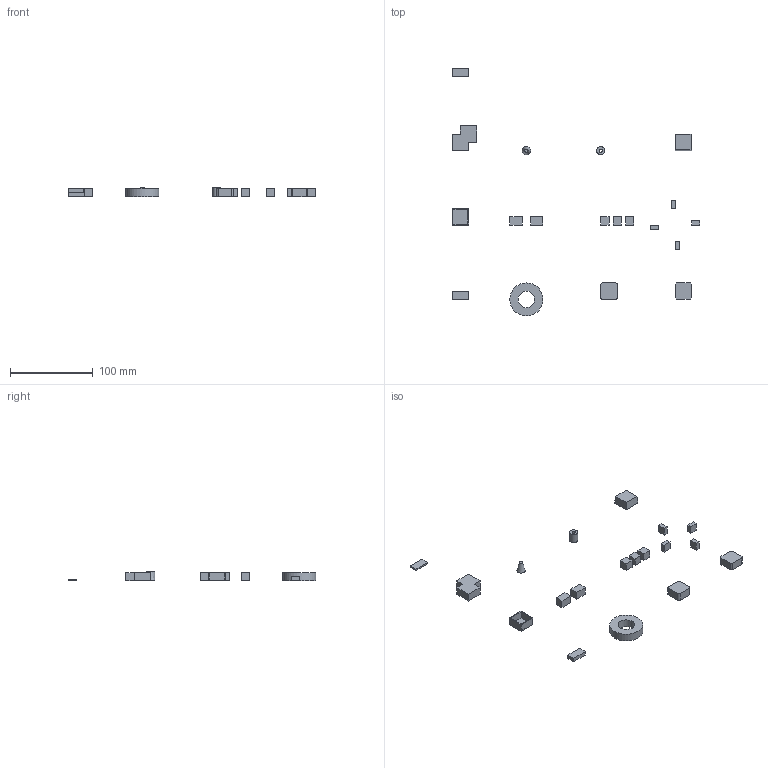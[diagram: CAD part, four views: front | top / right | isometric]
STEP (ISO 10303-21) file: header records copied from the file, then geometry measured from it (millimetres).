
FILE_DESCRIPTION(/* description */ ('STEP AP214','CAx-IF Rec.Pracs.---User Defined Attributes---1.5---2016-08-15'),/* implementation_level */ '2;1');
FILE_NAME(/* name */ '6ac81ae05e2bd90b32217297',/* time_stamp */ '2026-10-08T22:36:17Z',/* author */ (''),/* organization */ (''),/* preprocessor_version */ 'ST-DEVELOPER v20',/* originating_system */ 'ONSHAPE BY PTC INC, 1.221',/* authorisation */ ' ');
FILE_SCHEMA (('AUTOMOTIVE_DESIGN {1 0 10303 214 3 1 1}'));
Length unit declared in the file: metre
Products named in the file (19): Revolve; Mirror; Thicken; Extrude; Shell; Loft; Circular pattern; Chamfer; Draft; Linear pattern; Boolean union; Sweep; Fillet
Bounding box: 300 x 300 x 12 mm (x, y, z)
Volume: 39736.5 mm3; surface area: 20457.7 mm2
Topology: 19 solids, 19 shells, 124 faces, 255 edges, 170 vertices
Faces by surface type: plane 115, cylinder 8, cone 1
Full cylindrical faces by diameter (mm): 4 x1, 10 x1, 20 x1, 40 x1
Entity records: 3680 total; most frequent: CARTESIAN_POINT 563, DIRECTION 554, ORIENTED_EDGE 500, EDGE_CURVE 250, LINE 232, VECTOR 232, VERTEX_POINT 170, AXIS2_PLACEMENT_3D 161
